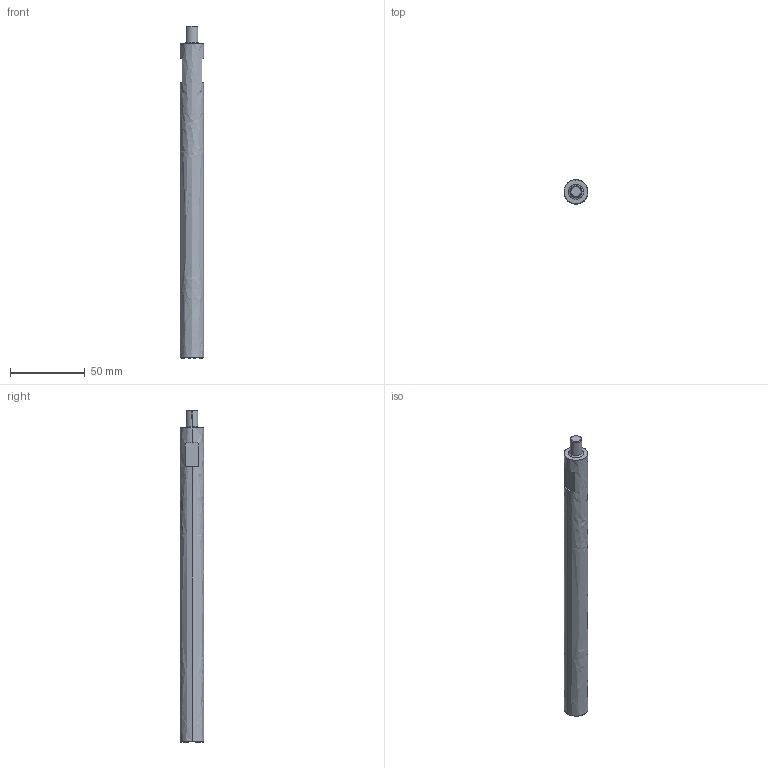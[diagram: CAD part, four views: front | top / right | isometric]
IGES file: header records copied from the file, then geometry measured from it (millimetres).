
Global section: file name: E:\UnigraphicsGraphicData\MISUMI_PRESS-PARTS\IGES\3d_mcup16-210_01356_r00.igs; native system: NX V5.0; preprocessor: UGS NX IGES V5.0; author: MISUMI; date: 20110105.161308; units: millimetre
Bounding box: 16 x 16 x 222 mm (x, y, z)
Surface area: 11244 mm2 (no closed solid volume)
Topology: 0 solids, 0 shells, 19 faces, 108 edges, 108 vertices
Faces by surface type: bspline 19
